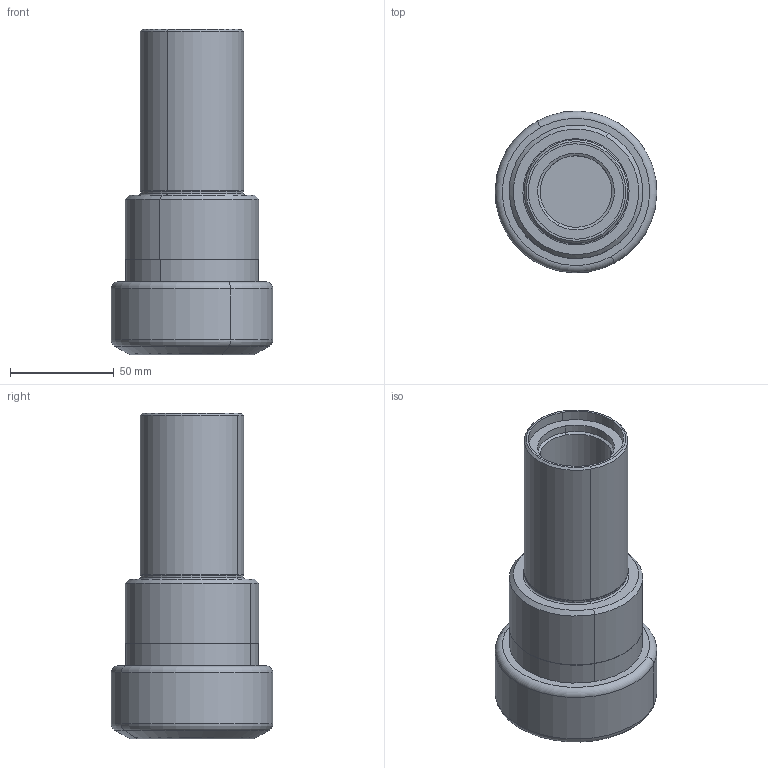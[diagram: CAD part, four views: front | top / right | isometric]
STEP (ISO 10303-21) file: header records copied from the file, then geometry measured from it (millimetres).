
FILE_DESCRIPTION(('CATIA V5 STEP','CAx-IF Rec.Pracs.--- Model Styling and Organization---1.2---2011-12-15'),'2;1');
FILE_NAME('\\nas01\drv1\utils\eitdev\rte\eit\transmagicconvert\db\out\635966632395594475\4508011 LM.stp','2016-04-19T08:47:31+00:00',('none'),('none'),'CATIA Version 5 Release 21 SP 5 (IN-10)','CATIA V5 STEP AP214','none');
FILE_SCHEMA(('AUTOMOTIVE_DESIGN { 1 0 10303 214 1 1 1 1 }'));
Length unit declared in the file: millimetre
Products named in the file (1): ST 50X 80 ER50 F
Bounding box: 77.98 x 77.98 x 157 mm (x, y, z)
Volume: 305758.3 mm3; surface area: 51251.4 mm2
Topology: 1 solids, 1 shells, 52 faces, 106 edges, 62 vertices
Faces by surface type: cylinder 20, cone 12, torus 10, plane 8, extrusion 2
Entity records: 1490 total; most frequent: CARTESIAN_POINT 470, ORIENTED_EDGE 212, DIRECTION 167, EDGE_CURVE 106, AXIS2_PLACEMENT_3D 98, CIRCLE 63, VERTEX_POINT 62, EDGE_LOOP 58
